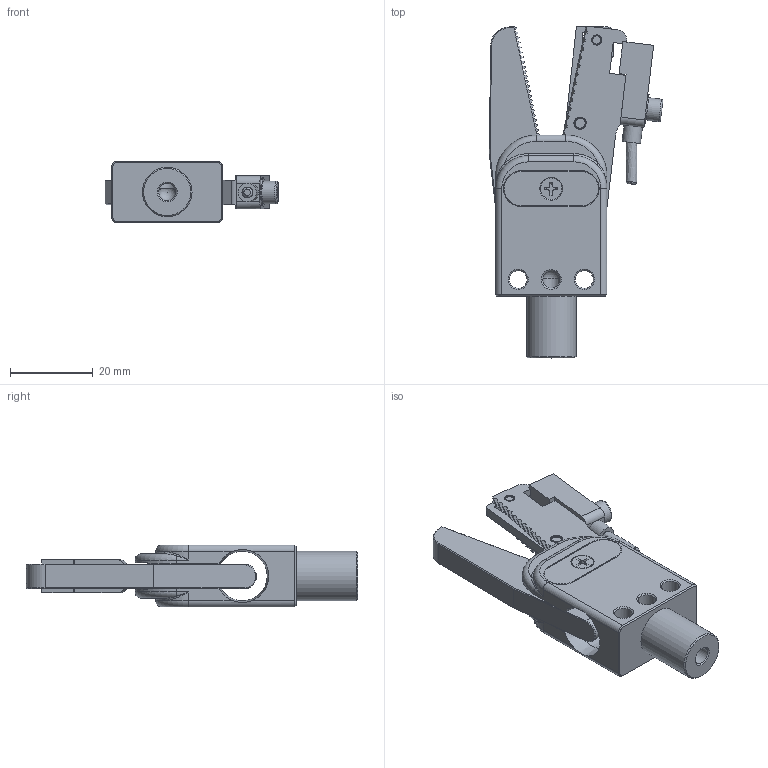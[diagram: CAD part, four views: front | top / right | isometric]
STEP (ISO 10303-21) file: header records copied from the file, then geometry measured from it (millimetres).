
FILE_DESCRIPTION(/* description */ (''),/* implementation_level */ '2;1');
FILE_NAME(/* name */ 'GR12A-12-CN.stp',/* time_stamp */ '2023-03-08T11:40:34+08:00',/* author */ (''),/* organization */ (''),/* preprocessor_version */ 'ST-DEVELOPER v16',/* originating_system */ 'SIEMENS PLM Software NX 10.0',/* authorisation */ '');
FILE_SCHEMA (('AUTOMOTIVE_DESIGN { 1 0 10303 214 3 1 1 1 }'));
Length unit declared in the file: millimetre
Products named in the file (1): Admi115498B06isd
Bounding box: 42.07 x 80.42 x 15 mm (x, y, z)
Volume: 16587.8 mm3; surface area: 10605.7 mm2
Topology: 1 solids, 10 shells, 970 faces, 2427 edges, 1484 vertices
Faces by surface type: plane 784, cylinder 98, cone 56, bspline 17, torus 14, sphere 1
Full cylindrical faces by diameter (mm): 2.2 x2, 2.5 x4, 2.7 x1, 3 x6, 3.2 x3, 3.4 x1, 3.5 x1, 4.2 x2, 4.3 x3, 4.5 x1, 5.2 x1, 5.5 x1, 7 x1, 12 x2
Entity records: 35117 total; most frequent: CARTESIAN_POINT 5934, ORIENTED_EDGE 4662, DIRECTION 4422, EDGE_CURVE 2331, LINE 1902, VECTOR 1902, VERTEX_POINT 1450, AXIS2_PLACEMENT_3D 1260
